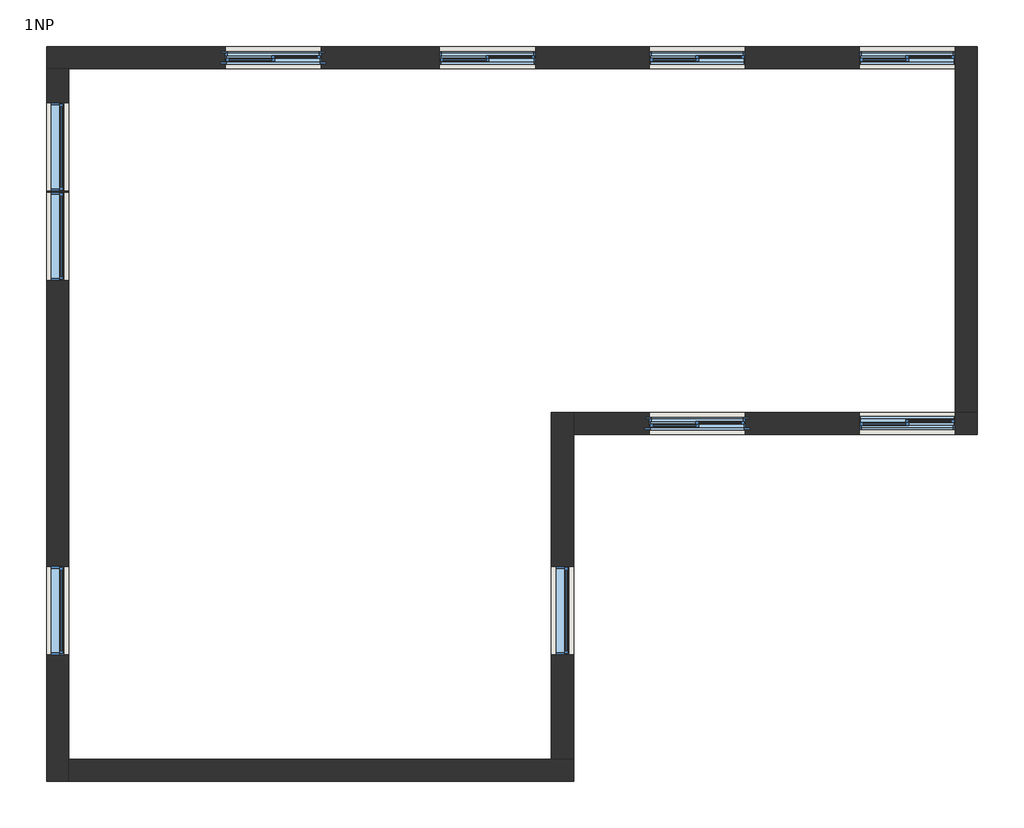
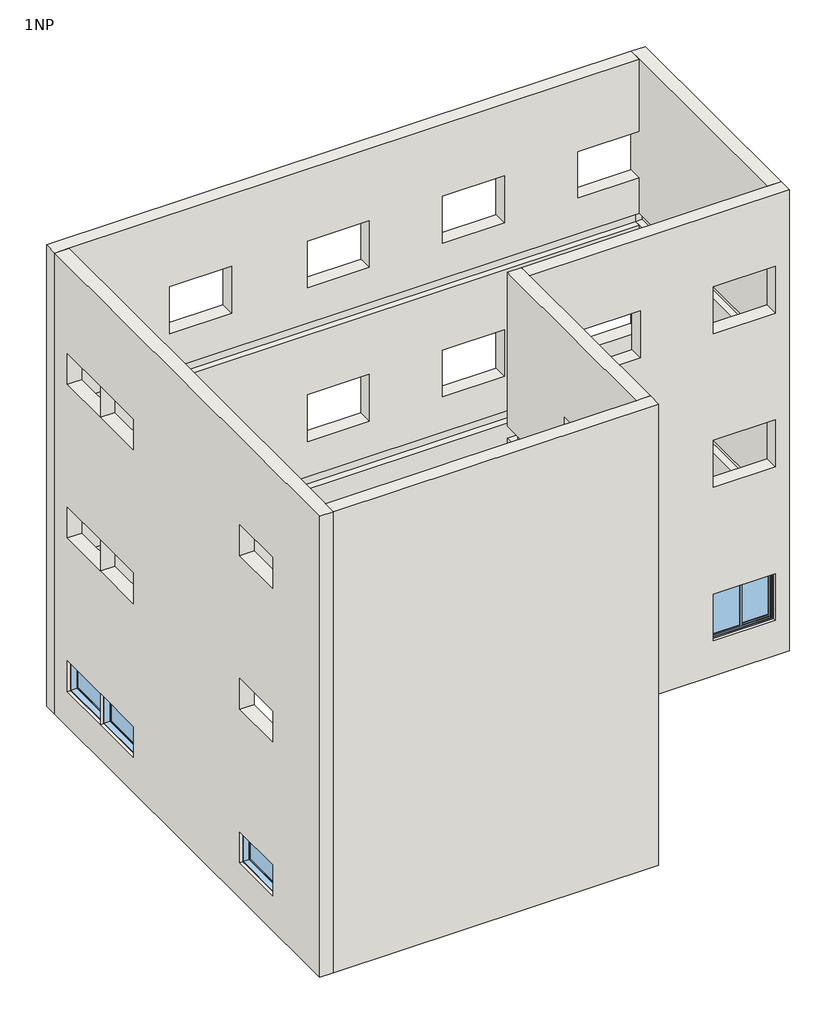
# One storey: 10 windows, 6 walls.
"""IFC4 building model written with IfcOpenShell, lengths in millimetres."""

from ifc_helpers import new_model, si_unit, origin, place, context, project, spatial, faceted_brep, transform, mapped, element, save
from components import m_fixed1_1400_x_0800mm_5a787fd8, m_sliding_with_trim_1830_x_1220mm_c09c27c4

model = new_model("IFC4")

# Units and contexts
model_context = context("Model", 3, world=origin())
ifc_project = project(units=[si_unit("LENGTHUNIT", "METRE", prefix="MILLI")], contexts=[model_context])

# Site, building, storey
site = spatial("IfcSite", under=ifc_project)
building = spatial("IfcBuilding", under=site)
storey = spatial("IfcBuildingStorey", under=building, Name="1NP", Elevation=0.0)

# Walls
placement = place(None, origin())
element("IfcWall", 1, ObjectType="Exterior - Brick on Mtl. Stud", at=placement, inside=storey, context=model_context, shape_type="Brep", body=[
    faceted_brep([(-7530.3077176, 6874.8026806, 0.0), (-7530.3077176, -4425.1973194, 0.0), (-7530.3077176, -4425.1973194, 12000.0), (-7530.3077176, 6874.8026806, 12000.0), (-7530.3077176, -1017.6973194, 4915.0), (-7530.3077176, -1017.6973194, 5715.0), (-7530.3077176, -2417.6973194, 5715.0), (-7530.3077176, -2417.6973194, 4915.0), (-7530.3077176, 4917.3026806, 4915.0), (-7530.3077176, 4917.3026806, 5715.0), (-7530.3077176, 3517.3026806, 5715.0), (-7530.3077176, 3517.3026806, 4915.0), (-7530.3077176, 6332.3026806, 4915.0), (-7530.3077176, 6332.3026806, 5715.0), (-7530.3077176, 4932.3026806, 5715.0), (-7530.3077176, 4932.3026806, 4915.0), (-7530.3077176, -1017.6973194, 8915.0), (-7530.3077176, -1017.6973194, 9715.0), (-7530.3077176, -2417.6973194, 9715.0), (-7530.3077176, -2417.6973194, 8915.0), (-7530.3077176, 4917.3026806, 8915.0), (-7530.3077176, 4917.3026806, 9715.0), (-7530.3077176, 3517.3026806, 9715.0), (-7530.3077176, 3517.3026806, 8915.0), (-7530.3077176, 6332.3026806, 8915.0), (-7530.3077176, 6332.3026806, 9715.0), (-7530.3077176, 4932.3026806, 9715.0), (-7530.3077176, 4932.3026806, 8915.0), (-7530.3077176, -1017.6973194, 915.0), (-7530.3077176, -1017.6973194, 1715.0), (-7530.3077176, -2417.6973194, 1715.0), (-7530.3077176, -2417.6973194, 915.0), (-7530.3077176, 4917.3026806, 915.0), (-7530.3077176, 4917.3026806, 1715.0), (-7530.3077176, 3517.3026806, 1715.0), (-7530.3077176, 3517.3026806, 915.0), (-7530.3077176, 6332.3026806, 915.0), (-7530.3077176, 6332.3026806, 1715.0), (-7530.3077176, 4932.3026806, 1715.0), (-7530.3077176, 4932.3026806, 915.0), (-7180.3077176, -4425.1973194, 0.0), (-7180.3077176, -4075.1973194, 0.0), (-7180.3077176, 6874.8026806, 0.0), (-7180.3077176, 6874.8026806, 3680.0), (-7180.3077176, -4075.1973194, 3680.0), (-7180.3077176, -4240.1973194, 3680.0), (-7180.3077176, -4240.1973194, 4000.0), (-7180.3077176, -4075.1973194, 4000.0), (-7180.3077176, 1286.3026806, 4000.0), (-7180.3077176, 1424.8026806, 4000.0), (-7180.3077176, 6874.8026806, 4000.0), (-7180.3077176, 6874.8026806, 7680.0), (-7180.3077176, -4075.1973194, 7680.0), (-7180.3077176, -4240.1973194, 7680.0), (-7180.3077176, -4240.1973194, 8000.0), (-7180.3077176, -4075.1973194, 8000.0), (-7180.3077176, 1286.3026806, 8000.0), (-7180.3077176, 1424.8026806, 8000.0), (-7180.3077176, 6874.8026806, 8000.0), (-7180.3077176, 6874.8026806, 12000.0), (-7180.3077176, 1424.8026806, 12000.0), (-7180.3077176, 1286.3026806, 12000.0), (-7180.3077176, -4075.1973194, 12000.0), (-7180.3077176, -4425.1973194, 12000.0), (-7180.3077176, -1017.6973194, 5715.0), (-7180.3077176, -1017.6973194, 4915.0), (-7180.3077176, -2417.6973194, 4915.0), (-7180.3077176, -2417.6973194, 5715.0), (-7180.3077176, 4917.3026806, 5715.0), (-7180.3077176, 4917.3026806, 4915.0), (-7180.3077176, 3517.3026806, 4915.0), (-7180.3077176, 3517.3026806, 5715.0), (-7180.3077176, 6332.3026806, 5715.0), (-7180.3077176, 6332.3026806, 4915.0), (-7180.3077176, 4932.3026806, 4915.0), (-7180.3077176, 4932.3026806, 5715.0), (-7180.3077176, -1017.6973194, 9715.0), (-7180.3077176, -1017.6973194, 8915.0), (-7180.3077176, -2417.6973194, 8915.0), (-7180.3077176, -2417.6973194, 9715.0), (-7180.3077176, 4917.3026806, 9715.0), (-7180.3077176, 4917.3026806, 8915.0), (-7180.3077176, 3517.3026806, 8915.0), (-7180.3077176, 3517.3026806, 9715.0), (-7180.3077176, 6332.3026806, 9715.0), (-7180.3077176, 6332.3026806, 8915.0), (-7180.3077176, 4932.3026806, 8915.0), (-7180.3077176, 4932.3026806, 9715.0), (-7180.3077176, -1017.6973194, 1715.0), (-7180.3077176, -1017.6973194, 915.0), (-7180.3077176, -2417.6973194, 915.0), (-7180.3077176, -2417.6973194, 1715.0), (-7180.3077176, 4917.3026806, 1715.0), (-7180.3077176, 4917.3026806, 915.0), (-7180.3077176, 3517.3026806, 915.0), (-7180.3077176, 3517.3026806, 1715.0), (-7180.3077176, 6332.3026806, 1715.0), (-7180.3077176, 6332.3026806, 915.0), (-7180.3077176, 4932.3026806, 915.0), (-7180.3077176, 4932.3026806, 1715.0), (-7345.3077176, 6874.8026806, 8000.0), (-7345.3077176, 6874.8026806, 7680.0), (-7345.3077176, 6874.8026806, 4000.0), (-7345.3077176, 6874.8026806, 3680.0), (-7345.3077176, -4240.1973194, 3680.0), (-7345.3077176, -4240.1973194, 4000.0), (-7345.3077176, -4240.1973194, 7680.0), (-7345.3077176, -4240.1973194, 8000.0)], [[[0, 1, 2, 3], [4, 5, 6, 7], [8, 9, 10, 11], [12, 13, 14, 15], [16, 17, 18, 19], [20, 21, 22, 23], [24, 25, 26, 27], [28, 29, 30, 31], [32, 33, 34, 35], [36, 37, 38, 39]], [[40, 41, 42, 43, 44, 45, 46, 47, 48, 49, 50, 51, 52, 53, 54, 55, 56, 57, 58, 59, 60, 61, 62, 63], [64, 65, 66, 67], [68, 69, 70, 71], [72, 73, 74, 75], [76, 77, 78, 79], [80, 81, 82, 83], [84, 85, 86, 87], [88, 89, 90, 91], [92, 93, 94, 95], [96, 97, 98, 99]], [[1, 0, 42, 41, 40]], [[3, 2, 63, 62, 61, 60, 59]], [[2, 1, 40, 63]], [[0, 3, 59, 58, 100, 101, 51, 50, 102, 103, 43, 42]], [[5, 4, 65, 64]], [[6, 5, 64, 67]], [[7, 6, 67, 66]], [[4, 7, 66, 65]], [[9, 8, 69, 68]], [[10, 9, 68, 71]], [[11, 10, 71, 70]], [[8, 11, 70, 69]], [[13, 12, 73, 72]], [[14, 13, 72, 75]], [[15, 14, 75, 74]], [[12, 15, 74, 73]], [[17, 16, 77, 76]], [[18, 17, 76, 79]], [[19, 18, 79, 78]], [[16, 19, 78, 77]], [[21, 20, 81, 80]], [[22, 21, 80, 83]], [[23, 22, 83, 82]], [[20, 23, 82, 81]], [[25, 24, 85, 84]], [[26, 25, 84, 87]], [[27, 26, 87, 86]], [[24, 27, 86, 85]], [[29, 28, 89, 88]], [[30, 29, 88, 91]], [[31, 30, 91, 90]], [[28, 31, 90, 89]], [[33, 32, 93, 92]], [[34, 33, 92, 95]], [[35, 34, 95, 94]], [[32, 35, 94, 93]], [[37, 36, 97, 96]], [[38, 37, 96, 99]], [[39, 38, 99, 98]], [[36, 39, 98, 97]], [[104, 45, 44, 43, 103]], [[46, 105, 102, 50, 49, 48, 47]], [[105, 104, 103, 102]], [[104, 105, 46, 45]], [[101, 106, 53, 52, 51]], [[54, 107, 100, 58, 57, 56, 55]], [[106, 107, 54, 53]], [[107, 106, 101, 100]]]),
])
element("IfcWall", 2, ObjectType="Exterior - Brick on Mtl. Stud", at=placement, inside=storey, context=model_context, shape_type="Brep", body=[
    faceted_brep([(-7180.3077176, -4425.1973194, 0.0), (819.6922824, -4425.1973194, 0.0), (819.6922824, -4425.1973194, 12000.0), (-7180.3077176, -4425.1973194, 12000.0), (819.6922824, -4075.1973194, 0.0), (469.6922824, -4075.1973194, 0.0), (-7180.3077176, -4075.1973194, 0.0), (-7180.3077176, -4075.1973194, 3680.0), (469.6922824, -4075.1973194, 3680.0), (634.6922824, -4075.1973194, 3680.0), (634.6922824, -4075.1973194, 4000.0), (469.6922824, -4075.1973194, 4000.0), (-4155.3077176, -4075.1973194, 4000.0), (-4293.8077176, -4075.1973194, 4000.0), (-7180.3077176, -4075.1973194, 4000.0), (-7180.3077176, -4075.1973194, 7680.0), (469.6922824, -4075.1973194, 7680.0), (634.6922824, -4075.1973194, 7680.0), (634.6922824, -4075.1973194, 8000.0), (469.6922824, -4075.1973194, 8000.0), (-4155.3077176, -4075.1973194, 8000.0), (-4293.8077176, -4075.1973194, 8000.0), (-7180.3077176, -4075.1973194, 8000.0), (-7180.3077176, -4075.1973194, 12000.0), (-4293.8077176, -4075.1973194, 12000.0), (-4155.3077176, -4075.1973194, 12000.0), (469.6922824, -4075.1973194, 12000.0), (819.6922824, -4075.1973194, 12000.0), (-7180.3077176, -4240.1973194, 8000.0), (-7180.3077176, -4240.1973194, 7680.0), (-7180.3077176, -4240.1973194, 4000.0), (-7180.3077176, -4240.1973194, 3680.0), (634.6922824, -4240.1973194, 3680.0), (634.6922824, -4240.1973194, 4000.0), (634.6922824, -4240.1973194, 7680.0), (634.6922824, -4240.1973194, 8000.0)], [[[0, 1, 2, 3]], [[4, 5, 6, 7, 8, 9, 10, 11, 12, 13, 14, 15, 16, 17, 18, 19, 20, 21, 22, 23, 24, 25, 26, 27]], [[1, 0, 6, 5, 4]], [[3, 2, 27, 26, 25, 24, 23]], [[2, 1, 4, 27]], [[0, 3, 23, 22, 28, 29, 15, 14, 30, 31, 7, 6]], [[31, 32, 9, 8, 7]], [[10, 33, 30, 14, 13, 12, 11]], [[32, 33, 10, 9]], [[33, 32, 31, 30]], [[29, 34, 17, 16, 15]], [[18, 35, 28, 22, 21, 20, 19]], [[34, 35, 18, 17]], [[35, 34, 29, 28]]]),
])
element("IfcWall", 3, ObjectType="Exterior - Brick on Mtl. Stud", at=placement, inside=storey, context=model_context, shape_type="Brep", body=[
    faceted_brep([(819.6922824, -4075.1973194, 0.0), (819.6922824, 1074.8026806, 0.0), (819.6922824, 1424.8026806, 0.0), (819.6922824, 1424.8026806, 3680.0), (819.6922824, 1259.8026806, 3680.0), (819.6922824, 1259.8026806, 4000.0), (819.6922824, 1424.8026806, 4000.0), (819.6922824, 1424.8026806, 7680.0), (819.6922824, 1259.8026806, 7680.0), (819.6922824, 1259.8026806, 8000.0), (819.6922824, 1424.8026806, 8000.0), (819.6922824, 1424.8026806, 12000.0), (819.6922824, 1074.8026806, 12000.0), (819.6922824, -4075.1973194, 12000.0), (819.6922824, -1017.6973194, 5715.0), (819.6922824, -1017.6973194, 4915.0), (819.6922824, -2417.6973194, 4915.0), (819.6922824, -2417.6973194, 5715.0), (819.6922824, -1017.6973194, 9715.0), (819.6922824, -1017.6973194, 8915.0), (819.6922824, -2417.6973194, 8915.0), (819.6922824, -2417.6973194, 9715.0), (819.6922824, -1017.6973194, 1715.0), (819.6922824, -1017.6973194, 915.0), (819.6922824, -2417.6973194, 915.0), (819.6922824, -2417.6973194, 1715.0), (469.6922824, 1424.8026806, 0.0), (469.6922824, -4075.1973194, 0.0), (469.6922824, -4075.1973194, 3680.0), (469.6922824, 1424.8026806, 3680.0), (469.6922824, -1017.6973194, 915.0), (469.6922824, -1017.6973194, 1715.0), (469.6922824, -2417.6973194, 1715.0), (469.6922824, -2417.6973194, 915.0), (469.6922824, -4075.1973194, 12000.0), (469.6922824, 1286.3026806, 12000.0), (469.6922824, 1424.8026806, 12000.0), (469.6922824, 1424.8026806, 8000.0), (469.6922824, 1286.3026806, 8000.0), (469.6922824, -4075.1973194, 8000.0), (469.6922824, -1017.6973194, 8915.0), (469.6922824, -1017.6973194, 9715.0), (469.6922824, -2417.6973194, 9715.0), (469.6922824, -2417.6973194, 8915.0), (469.6922824, 1424.8026806, 4000.0), (469.6922824, 1286.3026806, 4000.0), (469.6922824, -4075.1973194, 4000.0), (469.6922824, -4075.1973194, 7680.0), (469.6922824, 1424.8026806, 7680.0), (469.6922824, -1017.6973194, 4915.0), (469.6922824, -1017.6973194, 5715.0), (469.6922824, -2417.6973194, 5715.0), (469.6922824, -2417.6973194, 4915.0), (764.743045, 1424.8026806, 3680.0), (764.743045, 1424.8026806, 8000.0), (764.743045, 1424.8026806, 4000.0), (764.743045, 1424.8026806, 7680.0), (634.6922824, -4075.1973194, 8000.0), (634.6922824, -4075.1973194, 7680.0), (634.6922824, -4075.1973194, 4000.0), (634.6922824, -4075.1973194, 3680.0), (634.6922824, 1259.8026806, 3680.0), (634.6922824, 1259.8026806, 4000.0), (634.6922824, 1259.8026806, 7680.0), (634.6922824, 1259.8026806, 8000.0)], [[[0, 1, 2, 3, 4, 5, 6, 7, 8, 9, 10, 11, 12, 13], [14, 15, 16, 17], [18, 19, 20, 21], [22, 23, 24, 25]], [[26, 27, 28, 29], [30, 31, 32, 33]], [[34, 35, 36, 37, 38, 39], [40, 41, 42, 43]], [[44, 45, 46, 47, 48], [49, 50, 51, 52]], [[2, 1, 0, 27, 26]], [[13, 12, 11, 36, 35, 34]], [[2, 26, 29, 53, 3]], [[36, 11, 10, 54, 37]], [[6, 55, 44, 48, 56, 7]], [[0, 13, 34, 39, 57, 58, 47, 46, 59, 60, 28, 27]], [[50, 49, 15, 14]], [[51, 50, 14, 17]], [[52, 51, 17, 16]], [[49, 52, 16, 15]], [[41, 40, 19, 18]], [[42, 41, 18, 21]], [[43, 42, 21, 20]], [[40, 43, 20, 19]], [[31, 30, 23, 22]], [[32, 31, 22, 25]], [[33, 32, 25, 24]], [[30, 33, 24, 23]], [[60, 61, 4, 3, 53, 29, 28]], [[5, 62, 59, 46, 45, 44, 55, 6]], [[61, 62, 5, 4]], [[62, 61, 60, 59]], [[58, 63, 8, 7, 56, 48, 47]], [[9, 64, 57, 39, 38, 37, 54, 10]], [[63, 64, 9, 8]], [[64, 63, 58, 57]]]),
])
element("IfcWall", 4, ObjectType="Exterior - Brick on Mtl. Stud", at=placement, inside=storey, context=model_context, shape_type="Brep", body=[
    faceted_brep([(819.6922824, 1074.8026806, 0.0), (7219.6922824, 1074.8026806, 0.0), (7219.6922824, 1074.8026806, 12000.0), (819.6922824, 1074.8026806, 12000.0), (6869.6922824, 1074.8026806, 6133.6), (6869.6922824, 1074.8026806, 4914.4), (5345.6922824, 1074.8026806, 4914.4), (5345.6922824, 1074.8026806, 6133.6), (2019.6922824, 1074.8026806, 4914.4), (2019.6922824, 1074.8026806, 6133.6), (3543.6922824, 1074.8026806, 6133.6), (3543.6922824, 1074.8026806, 4914.4), (6869.6922824, 1074.8026806, 10133.6), (6869.6922824, 1074.8026806, 8914.4), (5345.6922824, 1074.8026806, 8914.4), (5345.6922824, 1074.8026806, 10133.6), (2019.6922824, 1074.8026806, 8914.4), (2019.6922824, 1074.8026806, 10133.6), (3543.6922824, 1074.8026806, 10133.6), (3543.6922824, 1074.8026806, 8914.4), (6869.6922824, 1074.8026806, 2133.6), (6869.6922824, 1074.8026806, 914.4), (5345.6922824, 1074.8026806, 914.4), (5345.6922824, 1074.8026806, 2133.6), (2019.6922824, 1074.8026806, 914.4), (2019.6922824, 1074.8026806, 2133.6), (3543.6922824, 1074.8026806, 2133.6), (3543.6922824, 1074.8026806, 914.4), (7219.6922824, 1424.8026806, 0.0), (6869.6922824, 1424.8026806, 0.0), (819.6922824, 1424.8026806, 0.0), (819.6922824, 1424.8026806, 3680.0), (6869.6922824, 1424.8026806, 3680.0), (7034.6922824, 1424.8026806, 3680.0), (7034.6922824, 1424.8026806, 4000.0), (6869.6922824, 1424.8026806, 4000.0), (903.243045, 1424.8026806, 4000.0), (819.6922824, 1424.8026806, 4000.0), (819.6922824, 1424.8026806, 7680.0), (6869.6922824, 1424.8026806, 7680.0), (7034.6922824, 1424.8026806, 7680.0), (7034.6922824, 1424.8026806, 8000.0), (6869.6922824, 1424.8026806, 8000.0), (819.6922824, 1424.8026806, 8000.0), (819.6922824, 1424.8026806, 12000.0), (6869.6922824, 1424.8026806, 12000.0), (7219.6922824, 1424.8026806, 12000.0), (6869.6922824, 1424.8026806, 4914.4), (6869.6922824, 1424.8026806, 6133.6), (5345.6922824, 1424.8026806, 6133.6), (5345.6922824, 1424.8026806, 4914.4), (2019.6922824, 1424.8026806, 6133.6), (2019.6922824, 1424.8026806, 4914.4), (3543.6922824, 1424.8026806, 4914.4), (3543.6922824, 1424.8026806, 6133.6), (6869.6922824, 1424.8026806, 8914.4), (6869.6922824, 1424.8026806, 10133.6), (5345.6922824, 1424.8026806, 10133.6), (5345.6922824, 1424.8026806, 8914.4), (2019.6922824, 1424.8026806, 10133.6), (2019.6922824, 1424.8026806, 8914.4), (3543.6922824, 1424.8026806, 8914.4), (3543.6922824, 1424.8026806, 10133.6), (6869.6922824, 1424.8026806, 914.4), (6869.6922824, 1424.8026806, 2133.6), (5345.6922824, 1424.8026806, 2133.6), (5345.6922824, 1424.8026806, 914.4), (2019.6922824, 1424.8026806, 2133.6), (2019.6922824, 1424.8026806, 914.4), (3543.6922824, 1424.8026806, 914.4), (3543.6922824, 1424.8026806, 2133.6), (819.6922824, 1259.8026806, 8000.0), (819.6922824, 1259.8026806, 7680.0), (819.6922824, 1259.8026806, 4000.0), (819.6922824, 1259.8026806, 3680.0), (7034.6922824, 1259.8026806, 3680.0), (7034.6922824, 1259.8026806, 4000.0), (7034.6922824, 1259.8026806, 7680.0), (7034.6922824, 1259.8026806, 8000.0)], [[[0, 1, 2, 3], [4, 5, 6, 7], [8, 9, 10, 11], [12, 13, 14, 15], [16, 17, 18, 19], [20, 21, 22, 23], [24, 25, 26, 27]], [[28, 29, 30, 31, 32, 33, 34, 35, 36, 37, 38, 39, 40, 41, 42, 43, 44, 45, 46], [47, 48, 49, 50], [51, 52, 53, 54], [55, 56, 57, 58], [59, 60, 61, 62], [63, 64, 65, 66], [67, 68, 69, 70]], [[1, 0, 30, 29, 28]], [[3, 2, 46, 45, 44]], [[2, 1, 28, 46]], [[0, 3, 44, 43, 71, 72, 38, 37, 73, 74, 31, 30]], [[5, 4, 48, 47]], [[6, 5, 47, 50]], [[7, 6, 50, 49]], [[4, 7, 49, 48]], [[52, 51, 9, 8]], [[53, 52, 8, 11]], [[54, 53, 11, 10]], [[51, 54, 10, 9]], [[13, 12, 56, 55]], [[14, 13, 55, 58]], [[15, 14, 58, 57]], [[12, 15, 57, 56]], [[60, 59, 17, 16]], [[61, 60, 16, 19]], [[62, 61, 19, 18]], [[59, 62, 18, 17]], [[21, 20, 64, 63]], [[22, 21, 63, 66]], [[23, 22, 66, 65]], [[20, 23, 65, 64]], [[68, 67, 25, 24]], [[69, 68, 24, 27]], [[70, 69, 27, 26]], [[67, 70, 26, 25]], [[74, 75, 33, 32, 31]], [[34, 76, 73, 37, 36, 35]], [[75, 76, 34, 33]], [[76, 75, 74, 73]], [[72, 77, 40, 39, 38]], [[41, 78, 71, 43, 42]], [[77, 78, 41, 40]], [[78, 77, 72, 71]]]),
])
element("IfcWall", 5, ObjectType="Exterior - Brick on Mtl. Stud", at=placement, inside=storey, context=model_context, shape_type="Brep", body=[
    faceted_brep([(7219.6922824, 1424.8026806, 0.0), (7219.6922824, 7224.8026806, 0.0), (7219.6922824, 7224.8026806, 12000.0), (7219.6922824, 1424.8026806, 12000.0), (6869.6922824, 7224.8026806, 0.0), (6869.6922824, 6874.8026806, 0.0), (6869.6922824, 1424.8026806, 0.0), (6869.6922824, 1424.8026806, 914.4), (6869.6922824, 1424.8026806, 2133.6), (6869.6922824, 1424.8026806, 3680.0), (6869.6922824, 6874.8026806, 3680.0), (6869.6922824, 7039.8026806, 3680.0), (6869.6922824, 7039.8026806, 4000.0), (6869.6922824, 6874.8026806, 4000.0), (6869.6922824, 1424.8026806, 4000.0), (6869.6922824, 1424.8026806, 4914.4), (6869.6922824, 1424.8026806, 6133.6), (6869.6922824, 1424.8026806, 7680.0), (6869.6922824, 6874.8026806, 7680.0), (6869.6922824, 7039.8026806, 7680.0), (6869.6922824, 7039.8026806, 8000.0), (6869.6922824, 6874.8026806, 8000.0), (6869.6922824, 1424.8026806, 8000.0), (6869.6922824, 1424.8026806, 8914.4), (6869.6922824, 1424.8026806, 10133.6), (6869.6922824, 1424.8026806, 12000.0), (6869.6922824, 6874.8026806, 12000.0), (6869.6922824, 7224.8026806, 12000.0), (6869.6922824, 7224.8026806, 10133.6), (6869.6922824, 7224.8026806, 8914.4), (6869.6922824, 7224.8026806, 6133.6), (6869.6922824, 7224.8026806, 4914.4), (6869.6922824, 7224.8026806, 2133.6), (6869.6922824, 7224.8026806, 914.4), (7034.6922824, 1424.8026806, 8000.0), (7034.6922824, 1424.8026806, 7680.0), (7034.6922824, 1424.8026806, 4000.0), (7034.6922824, 1424.8026806, 3680.0), (7034.6922824, 7039.8026806, 3680.0), (7034.6922824, 7039.8026806, 4000.0), (7034.6922824, 7039.8026806, 7680.0), (7034.6922824, 7039.8026806, 8000.0)], [[[0, 1, 2, 3]], [[4, 5, 6, 7, 8, 9, 10, 11, 12, 13, 14, 15, 16, 17, 18, 19, 20, 21, 22, 23, 24, 25, 26, 27, 28, 29, 30, 31, 32, 33]], [[1, 0, 6, 5, 4]], [[3, 2, 27, 26, 25]], [[2, 1, 4, 33, 32, 31, 30, 29, 28, 27]], [[0, 3, 25, 24, 23, 22, 34, 35, 17, 16, 15, 14, 36, 37, 9, 8, 7, 6]], [[37, 38, 11, 10, 9]], [[12, 39, 36, 14, 13]], [[38, 39, 12, 11]], [[39, 38, 37, 36]], [[35, 40, 19, 18, 17]], [[41, 34, 22, 21, 20]], [[40, 41, 20, 19]], [[41, 40, 35, 34]]]),
])
element("IfcWall", 6, ObjectType="Exterior - Brick on Mtl. Stud", at=placement, inside=storey, context=model_context, shape_type="Brep", body=[
    faceted_brep([(6869.6922824, 7224.8026806, 0.0), (-7530.3077176, 7224.8026806, 0.0), (-7530.3077176, 7224.8026806, 12000.0), (6869.6922824, 7224.8026806, 12000.0), (6869.6922824, 7224.8026806, 10133.6), (5345.6922824, 7224.8026806, 10133.6), (5345.6922824, 7224.8026806, 8914.4), (6869.6922824, 7224.8026806, 8914.4), (6869.6922824, 7224.8026806, 6133.6), (5345.6922824, 7224.8026806, 6133.6), (5345.6922824, 7224.8026806, 4914.4), (6869.6922824, 7224.8026806, 4914.4), (6869.6922824, 7224.8026806, 2133.6), (5345.6922824, 7224.8026806, 2133.6), (5345.6922824, 7224.8026806, 914.4), (6869.6922824, 7224.8026806, 914.4), (2019.6922824, 7224.8026806, 6133.6), (2019.6922824, 7224.8026806, 4914.4), (3543.6922824, 7224.8026806, 4914.4), (3543.6922824, 7224.8026806, 6133.6), (-1306.3077176, 7224.8026806, 6133.6), (-1306.3077176, 7224.8026806, 4914.4), (217.6922824, 7224.8026806, 4914.4), (217.6922824, 7224.8026806, 6133.6), (-4702.1577176, 7224.8026806, 6133.6), (-4702.1577176, 7224.8026806, 4914.4), (-3178.1577176, 7224.8026806, 4914.4), (-3178.1577176, 7224.8026806, 6133.6), (2019.6922824, 7224.8026806, 10133.6), (2019.6922824, 7224.8026806, 8914.4), (3543.6922824, 7224.8026806, 8914.4), (3543.6922824, 7224.8026806, 10133.6), (-1306.3077176, 7224.8026806, 10133.6), (-1306.3077176, 7224.8026806, 8914.4), (217.6922824, 7224.8026806, 8914.4), (217.6922824, 7224.8026806, 10133.6), (-4702.1577176, 7224.8026806, 10133.6), (-4702.1577176, 7224.8026806, 8914.4), (-3178.1577176, 7224.8026806, 8914.4), (-3178.1577176, 7224.8026806, 10133.6), (2019.6922824, 7224.8026806, 2133.6), (2019.6922824, 7224.8026806, 914.4), (3543.6922824, 7224.8026806, 914.4), (3543.6922824, 7224.8026806, 2133.6), (-1306.3077176, 7224.8026806, 2133.6), (-1306.3077176, 7224.8026806, 914.4), (217.6922824, 7224.8026806, 914.4), (217.6922824, 7224.8026806, 2133.6), (-4702.1577176, 7224.8026806, 2133.6), (-4702.1577176, 7224.8026806, 914.4), (-3178.1577176, 7224.8026806, 914.4), (-3178.1577176, 7224.8026806, 2133.6), (-7530.3077176, 6874.8026806, 0.0), (-7180.3077176, 6874.8026806, 0.0), (6869.6922824, 6874.8026806, 0.0), (6869.6922824, 6874.8026806, 914.4), (5345.6922824, 6874.8026806, 914.4), (5345.6922824, 6874.8026806, 2133.6), (6869.6922824, 6874.8026806, 2133.6), (6869.6922824, 6874.8026806, 3680.0), (-7180.3077176, 6874.8026806, 3680.0), (-7345.3077176, 6874.8026806, 3680.0), (-7345.3077176, 6874.8026806, 4000.0), (-7180.3077176, 6874.8026806, 4000.0), (-2785.256955, 6874.8026806, 4000.0), (-2646.756955, 6874.8026806, 4000.0), (764.743045, 6874.8026806, 4000.0), (903.243045, 6874.8026806, 4000.0), (6869.6922824, 6874.8026806, 4000.0), (6869.6922824, 6874.8026806, 4914.4), (5345.6922824, 6874.8026806, 4914.4), (5345.6922824, 6874.8026806, 6133.6), (6869.6922824, 6874.8026806, 6133.6), (6869.6922824, 6874.8026806, 7680.0), (-7180.3077176, 6874.8026806, 7680.0), (-7345.3077176, 6874.8026806, 7680.0), (-7345.3077176, 6874.8026806, 8000.0), (-7180.3077176, 6874.8026806, 8000.0), (6869.6922824, 6874.8026806, 8000.0), (6869.6922824, 6874.8026806, 8914.4), (5345.6922824, 6874.8026806, 8914.4), (5345.6922824, 6874.8026806, 10133.6), (6869.6922824, 6874.8026806, 10133.6), (6869.6922824, 6874.8026806, 12000.0), (-7180.3077176, 6874.8026806, 12000.0), (-7530.3077176, 6874.8026806, 12000.0), (2019.6922824, 6874.8026806, 4914.4), (2019.6922824, 6874.8026806, 6133.6), (3543.6922824, 6874.8026806, 6133.6), (3543.6922824, 6874.8026806, 4914.4), (-1306.3077176, 6874.8026806, 4914.4), (-1306.3077176, 6874.8026806, 6133.6), (217.6922824, 6874.8026806, 6133.6), (217.6922824, 6874.8026806, 4914.4), (-4702.1577176, 6874.8026806, 4914.4), (-4702.1577176, 6874.8026806, 6133.6), (-3178.1577176, 6874.8026806, 6133.6), (-3178.1577176, 6874.8026806, 4914.4), (2019.6922824, 6874.8026806, 8914.4), (2019.6922824, 6874.8026806, 10133.6), (3543.6922824, 6874.8026806, 10133.6), (3543.6922824, 6874.8026806, 8914.4), (-1306.3077176, 6874.8026806, 8914.4), (-1306.3077176, 6874.8026806, 10133.6), (217.6922824, 6874.8026806, 10133.6), (217.6922824, 6874.8026806, 8914.4), (-4702.1577176, 6874.8026806, 8914.4), (-4702.1577176, 6874.8026806, 10133.6), (-3178.1577176, 6874.8026806, 10133.6), (-3178.1577176, 6874.8026806, 8914.4), (2019.6922824, 6874.8026806, 914.4), (2019.6922824, 6874.8026806, 2133.6), (3543.6922824, 6874.8026806, 2133.6), (3543.6922824, 6874.8026806, 914.4), (-1306.3077176, 6874.8026806, 914.4), (-1306.3077176, 6874.8026806, 2133.6), (217.6922824, 6874.8026806, 2133.6), (217.6922824, 6874.8026806, 914.4), (-4702.1577176, 6874.8026806, 914.4), (-4702.1577176, 6874.8026806, 2133.6), (-3178.1577176, 6874.8026806, 2133.6), (-3178.1577176, 6874.8026806, 914.4), (6869.6922824, 7039.8026806, 4000.0), (6869.6922824, 7039.8026806, 3680.0), (6869.6922824, 7039.8026806, 8000.0), (6869.6922824, 7039.8026806, 7680.0), (-7345.3077176, 7039.8026806, 3680.0), (-7345.3077176, 7039.8026806, 4000.0), (-7345.3077176, 7039.8026806, 7680.0), (-7345.3077176, 7039.8026806, 8000.0)], [[[0, 1, 2, 3, 4, 5, 6, 7, 8, 9, 10, 11, 12, 13, 14, 15], [16, 17, 18, 19], [20, 21, 22, 23], [24, 25, 26, 27], [28, 29, 30, 31], [32, 33, 34, 35], [36, 37, 38, 39], [40, 41, 42, 43], [44, 45, 46, 47], [48, 49, 50, 51]], [[52, 53, 54, 55, 56, 57, 58, 59, 60, 61, 62, 63, 64, 65, 66, 67, 68, 69, 70, 71, 72, 73, 74, 75, 76, 77, 78, 79, 80, 81, 82, 83, 84, 85], [86, 87, 88, 89], [90, 91, 92, 93], [94, 95, 96, 97], [98, 99, 100, 101], [102, 103, 104, 105], [106, 107, 108, 109], [110, 111, 112, 113], [114, 115, 116, 117], [118, 119, 120, 121]], [[1, 0, 54, 53, 52]], [[3, 2, 85, 84, 83]], [[2, 1, 52, 85]], [[3, 83, 82, 4]], [[54, 0, 15, 55]], [[11, 69, 68, 122, 123, 59, 58, 12]], [[72, 8, 7, 79, 78, 124, 125, 73]], [[10, 9, 71, 70]], [[11, 10, 70, 69]], [[9, 8, 72, 71]], [[17, 16, 87, 86]], [[18, 17, 86, 89]], [[19, 18, 89, 88]], [[16, 19, 88, 87]], [[21, 20, 91, 90]], [[22, 21, 90, 93]], [[23, 22, 93, 92]], [[20, 23, 92, 91]], [[25, 24, 95, 94]], [[26, 25, 94, 97]], [[27, 26, 97, 96]], [[24, 27, 96, 95]], [[6, 5, 81, 80]], [[7, 6, 80, 79]], [[5, 4, 82, 81]], [[29, 28, 99, 98]], [[30, 29, 98, 101]], [[31, 30, 101, 100]], [[28, 31, 100, 99]], [[33, 32, 103, 102]], [[34, 33, 102, 105]], [[35, 34, 105, 104]], [[32, 35, 104, 103]], [[37, 36, 107, 106]], [[38, 37, 106, 109]], [[39, 38, 109, 108]], [[36, 39, 108, 107]], [[14, 13, 57, 56]], [[15, 14, 56, 55]], [[13, 12, 58, 57]], [[41, 40, 111, 110]], [[42, 41, 110, 113]], [[43, 42, 113, 112]], [[40, 43, 112, 111]], [[45, 44, 115, 114]], [[46, 45, 114, 117]], [[47, 46, 117, 116]], [[44, 47, 116, 115]], [[49, 48, 119, 118]], [[50, 49, 118, 121]], [[51, 50, 121, 120]], [[48, 51, 120, 119]], [[123, 126, 61, 60, 59]], [[127, 122, 68, 67, 66, 65, 64, 63, 62]], [[126, 127, 62, 61]], [[127, 126, 123, 122]], [[128, 75, 74, 73, 125]], [[76, 129, 124, 78, 77]], [[129, 128, 125, 124]], [[128, 129, 76, 75]]]),
])

# Windows
m_fixed1_1400_x_0800mm_shape = m_fixed1_1400_x_0800mm_5a787fd8(model_context)
element("IfcWindow", 7, ObjectType="M_Fixed1 : 1400 x 0800mm", at=placement, inside=storey, context=model_context, shape_type="MappedRepresentation", body=[
    mapped(m_fixed1_1400_x_0800mm_shape, transform((-7368.3077176, -1717.6973194, 0.0), x_axis=(0.0, -1.0, 0.0), y_axis=(1.0, 0.0, 0.0), z_axis=(0.0, 0.0, 1.0))),
])
element("IfcWindow", 8, ObjectType="M_Fixed1 : 1400 x 0800mm", at=placement, inside=storey, context=model_context, shape_type="MappedRepresentation", body=[
    mapped(m_fixed1_1400_x_0800mm_shape, transform((-7368.3077176, 4217.3026806, 0.0), x_axis=(0.0, -1.0, 0.0), y_axis=(1.0, 0.0, 0.0), z_axis=(0.0, 0.0, 1.0))),
])
element("IfcWindow", 9, ObjectType="M_Fixed1 : 1400 x 0800mm", at=placement, inside=storey, context=model_context, shape_type="MappedRepresentation", body=[
    mapped(m_fixed1_1400_x_0800mm_shape, transform((-7368.3077176, 5632.3026806, 0.0), x_axis=(0.0, -1.0, 0.0), y_axis=(1.0, 0.0, 0.0), z_axis=(0.0, 0.0, 1.0))),
])
element("IfcWindow", 10, ObjectType="M_Fixed1 : 1400 x 0800mm", at=placement, inside=storey, context=model_context, shape_type="MappedRepresentation", body=[
    mapped(m_fixed1_1400_x_0800mm_shape, transform((631.6922824, -1717.6973194, 0.0), x_axis=(0.0, -1.0, 0.0), y_axis=(1.0, 0.0, 0.0), z_axis=(0.0, 0.0, 1.0))),
])
m_sliding_with_trim_1830_x_1220mm_shape = m_sliding_with_trim_1830_x_1220mm_c09c27c4(model_context)
element("IfcWindow", 11, ObjectType="M_Sliding with Trim : 1830 x 1220mm", at=placement, inside=storey, context=model_context, shape_type="MappedRepresentation", body=[
    mapped(m_sliding_with_trim_1830_x_1220mm_shape, transform((6107.6922824, 7049.8026806, 0.0), x_axis=(-1.0, 0.0, 0.0), y_axis=(0.0, -1.0, 0.0), z_axis=(0.0, 0.0, 1.0))),
])
element("IfcWindow", 12, ObjectType="M_Sliding with Trim : 1830 x 1220mm", at=placement, inside=storey, context=model_context, shape_type="MappedRepresentation", body=[
    mapped(m_sliding_with_trim_1830_x_1220mm_shape, transform((2781.6922824, 7049.8026806, 0.0), x_axis=(-1.0, 0.0, 0.0), y_axis=(0.0, -1.0, 0.0), z_axis=(0.0, 0.0, 1.0))),
])
element("IfcWindow", 13, ObjectType="M_Sliding with Trim : 1830 x 1220mm", at=placement, inside=storey, context=model_context, shape_type="MappedRepresentation", body=[
    mapped(m_sliding_with_trim_1830_x_1220mm_shape, transform((6107.6922824, 1249.8026806, 0.0), x_axis=(1.0, 0.0, 0.0), y_axis=(0.0, 1.0, 0.0), z_axis=(0.0, 0.0, 1.0))),
])
element("IfcWindow", 14, ObjectType="M_Sliding with Trim : 1830 x 1220mm", at=placement, inside=storey, context=model_context, shape_type="MappedRepresentation", body=[
    mapped(m_sliding_with_trim_1830_x_1220mm_shape, transform((2781.6922824, 1249.8026806, 0.0), x_axis=(-1.0, 0.0, 0.0), y_axis=(0.0, -1.0, 0.0), z_axis=(0.0, 0.0, 1.0))),
])
element("IfcWindow", 15, ObjectType="M_Sliding with Trim : 1830 x 1220mm", at=placement, inside=storey, context=model_context, shape_type="MappedRepresentation", body=[
    mapped(m_sliding_with_trim_1830_x_1220mm_shape, transform((-544.3077176, 7049.8026806, 0.0), x_axis=(-1.0, 0.0, 0.0), y_axis=(0.0, -1.0, 0.0), z_axis=(0.0, 0.0, 1.0))),
])
element("IfcWindow", 16, ObjectType="M_Sliding with Trim : 1830 x 1220mm", at=placement, inside=storey, context=model_context, shape_type="MappedRepresentation", body=[
    mapped(m_sliding_with_trim_1830_x_1220mm_shape, transform((-3940.1577176, 7049.8026806, 0.0), x_axis=(-1.0, 0.0, 0.0), y_axis=(0.0, -1.0, 0.0), z_axis=(0.0, 0.0, 1.0))),
])

save(model, "model.ifc")
